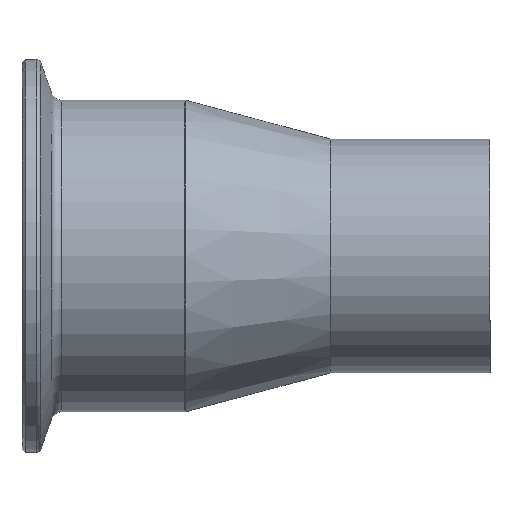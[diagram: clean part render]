
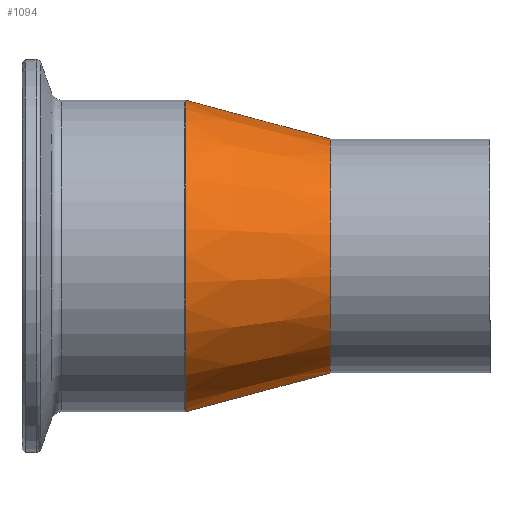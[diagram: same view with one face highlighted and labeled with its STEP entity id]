
A CAD part, top view. The second image highlights one B-rep face of the part: STEP entity #1094.
In plain terms, the highlighted conical face has half-angle 15 degrees and reference radius 19.05 mm.
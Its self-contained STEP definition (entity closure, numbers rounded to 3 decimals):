
#5 = CIRCLE ( 'NONE', #1106, 19.05 ) ;
#19 = VERTEX_POINT ( 'NONE', #659 ) ;
#21 = DIRECTION ( 'NONE',  ( -1., 0., 0. ) ) ;
#39 = EDGE_CURVE ( 'NONE', #19, #485, #1093, .T. ) ;
#60 = AXIS2_PLACEMENT_3D ( 'NONE', #369, #21, #285 ) ;
#127 = EDGE_CURVE ( 'NONE', #629, #485, #838, .T. ) ;
#161 = VERTEX_POINT ( 'NONE', #717 ) ;
#164 = AXIS2_PLACEMENT_3D ( 'NONE', #986, #217, #941 ) ;
#217 = DIRECTION ( 'NONE',  ( 1., 0., 0. ) ) ;
#285 = DIRECTION ( 'NONE',  ( 0., -1., 0. ) ) ;
#369 = CARTESIAN_POINT ( 'NONE',  ( -26., 0., 0. ) ) ;
#373 = CARTESIAN_POINT ( 'NONE',  ( -26., 0., 0. ) ) ;
#398 = DIRECTION ( 'NONE',  ( -0.966, 0.259, 0. ) ) ;
#445 = CARTESIAN_POINT ( 'NONE',  ( -26., -19.05, 0. ) ) ;
#465 = DIRECTION ( 'NONE',  ( 0., 1., 0. ) ) ;
#485 = VERTEX_POINT ( 'NONE', #564 ) ;
#504 = ORIENTED_EDGE ( 'NONE', *, *, #39, .T. ) ;
#511 = EDGE_CURVE ( 'NONE', #161, #19, #585, .T. ) ;
#536 = ORIENTED_EDGE ( 'NONE', *, *, #511, .T. ) ;
#564 = CARTESIAN_POINT ( 'NONE',  ( -49.597, -25.373, 0. ) ) ;
#567 = EDGE_LOOP ( 'NONE', ( #826, #536, #504, #748 ) ) ;
#585 = LINE ( 'NONE', #640, #1031 ) ;
#626 = VECTOR ( 'NONE', #789, 1000. ) ;
#629 = VERTEX_POINT ( 'NONE', #445 ) ;
#640 = CARTESIAN_POINT ( 'NONE',  ( -26., 19.05, 0. ) ) ;
#645 = CONICAL_SURFACE ( 'NONE', #60, 19.05, 0.262 ) ;
#659 = CARTESIAN_POINT ( 'NONE',  ( -49.597, 25.373, 0. ) ) ;
#717 = CARTESIAN_POINT ( 'NONE',  ( -26., 19.05, 0. ) ) ;
#748 = ORIENTED_EDGE ( 'NONE', *, *, #127, .F. ) ;
#789 = DIRECTION ( 'NONE',  ( -0.966, -0.259, 0. ) ) ;
#826 = ORIENTED_EDGE ( 'NONE', *, *, #1089, .F. ) ;
#838 = LINE ( 'NONE', #1080, #626 ) ;
#887 = FACE_OUTER_BOUND ( 'NONE', #567, .T. ) ;
#941 = DIRECTION ( 'NONE',  ( 0., 1., 0. ) ) ;
#968 = DIRECTION ( 'NONE',  ( 1., 0., 0. ) ) ;
#986 = CARTESIAN_POINT ( 'NONE',  ( -49.597, 0., 0. ) ) ;
#1031 = VECTOR ( 'NONE', #398, 1000. ) ;
#1080 = CARTESIAN_POINT ( 'NONE',  ( -26., -19.05, 0. ) ) ;
#1089 = EDGE_CURVE ( 'NONE', #161, #629, #5, .T. ) ;
#1093 = CIRCLE ( 'NONE', #164, 25.373 ) ;
#1094 = ADVANCED_FACE ( 'NONE', ( #887 ), #645, .T. ) ;
#1106 = AXIS2_PLACEMENT_3D ( 'NONE', #373, #968, #465 ) ;
